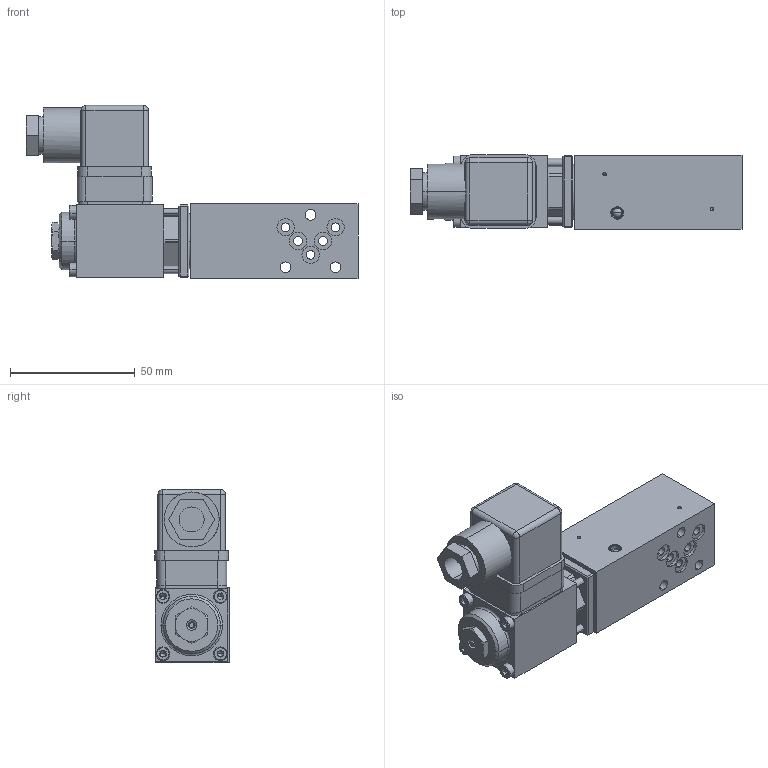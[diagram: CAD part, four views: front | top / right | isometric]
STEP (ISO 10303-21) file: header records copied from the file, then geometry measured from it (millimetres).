
FILE_DESCRIPTION (( 'STEP AP214' ), '1' );
FILE_NAME ('D.PSA03-T.STEP', '2017-04-19T12:48:28', ( '' ), ( '' ), 'SwSTEP 2.0', 'SolidWorks 2016', '' );
FILE_SCHEMA (( 'AUTOMOTIVE_DESIGN' ));
Length unit declared in the file: millimetre
Products named in the file (1): D.PSA03-T
Bounding box: 132.95 x 29.75 x 69.3 mm (x, y, z)
Volume: 127924 mm3; surface area: 35327.2 mm2
Topology: 8 solids, 14 shells, 664 faces, 1648 edges, 1047 vertices
Faces by surface type: plane 355, cylinder 226, cone 51, torus 22, bspline 6, sphere 4
Entity records: 26881 total; most frequent: CARTESIAN_POINT 3655, DIRECTION 3488, ORIENTED_EDGE 3256, EDGE_CURVE 1628, AXIS2_PLACEMENT_3D 1248, VERTEX_POINT 1047, VECTOR 992, LINE 992
